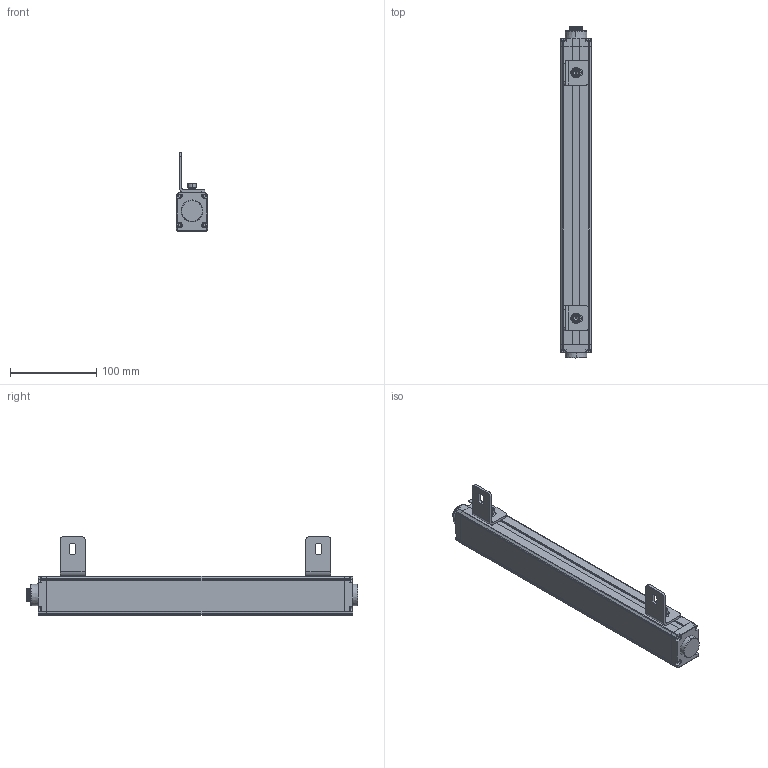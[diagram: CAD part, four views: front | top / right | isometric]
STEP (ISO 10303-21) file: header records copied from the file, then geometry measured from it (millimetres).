
FILE_DESCRIPTION((''),'2;1');
FILE_NAME('ESCL-00_ASM','2021-07-17T11:02:28',('18720616900'),(''),'CREO PARAMETRIC BY PTC INC, 2019010','CREO PARAMETRIC BY PTC INC, 2019010','');
FILE_SCHEMA(('CONFIG_CONTROL_DESIGN'));
Products named in the file (12): ESCL-00; ESCL-3-SOLID1000; ESCL-4-SOLID1000; HKCT1_-4-SOLID1; L10001; M6-8--0001; M6-1--00; M6-1-00; 00; M6-80001_ASM; L1--0001_ASM; ESCL-00_ASM
Assembly tree (12 placements, depth 4):
  ESCL-00_ASM
    ESCL-00
    ESCL-3-SOLID1000
    ESCL-4-SOLID1000
    HKCT1_-4-SOLID1
    L1--0001_ASM  x2
      L10001
      M6-80001_ASM
        M6-8--0001
        M6-1--00
        M6-1-00
        00
Bounding box: 36.1 x 385.1 x 91.11 mm (x, y, z)
Volume: 545510 mm3; surface area: 95624.9 mm2
Topology: 14 solids, 14 shells, 625 faces, 1645 edges, 1070 vertices
Faces by surface type: plane 226, cylinder 208, cone 78, bspline 66, torus 47
Entity records: 76177 total; most frequent: CARTESIAN_POINT 63991, ORIENTED_EDGE 2664, DIRECTION 2275, EDGE_CURVE 1332, VERTEX_POINT 872, AXIS2_PLACEMENT_3D 816, VECTOR 643, LINE 643
